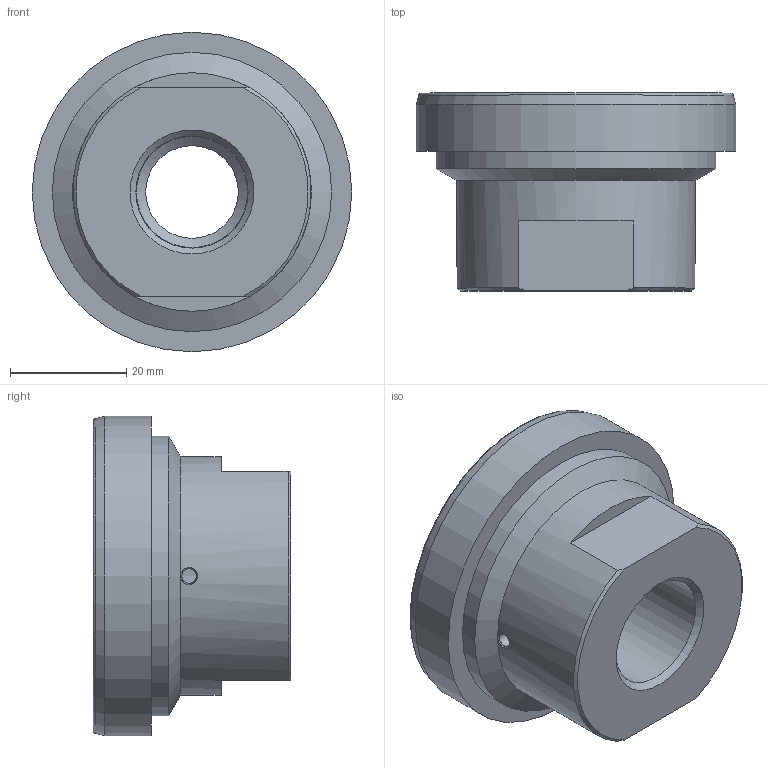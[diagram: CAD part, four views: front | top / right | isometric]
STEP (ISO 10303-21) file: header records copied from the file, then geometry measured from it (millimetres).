
FILE_DESCRIPTION( ( 'Unknown' ), '1' );
FILE_NAME( 'Z:/U_Proces/Tegn-Solid Edge/Ole Projekter/Ændringsanmodninger/500000015563-15564 Adabter/11190780/11190780.stp', 'Unknown', ( 'Unknown' ), ( 'Unknown' ), 'PSStep 15.0.49', 'Unknown', ' ' );
FILE_SCHEMA( ( 'AUTOMOTIVE_DESIGN { 1 0 10303 214 1 1 1 1 }' ) );
Length unit declared in the file: millimetre
Products named in the file (1): 1
Bounding box: 54.9 x 34 x 54.9 mm (x, y, z)
Volume: 40579.3 mm3; surface area: 11341.6 mm2
Topology: 1 solids, 1 shells, 29 faces, 64 edges, 40 vertices
Faces by surface type: plane 9, cone 8, cylinder 7, torus 4, bspline 1
Full cylindrical faces by diameter (mm): 2.5 x1, 19.1 x1, 19.3 x1, 41 x1, 48 x1, 48.66 x1, 54.9 x1
Entity records: 1028 total; most frequent: CARTESIAN_POINT 227, DIRECTION 118, ORIENTED_EDGE 82, AXIS2_PLACEMENT_3D 55, EDGE_LOOP 54, FACE_OUTER_BOUND 41, EDGE_CURVE 41, VERTEX_POINT 36
